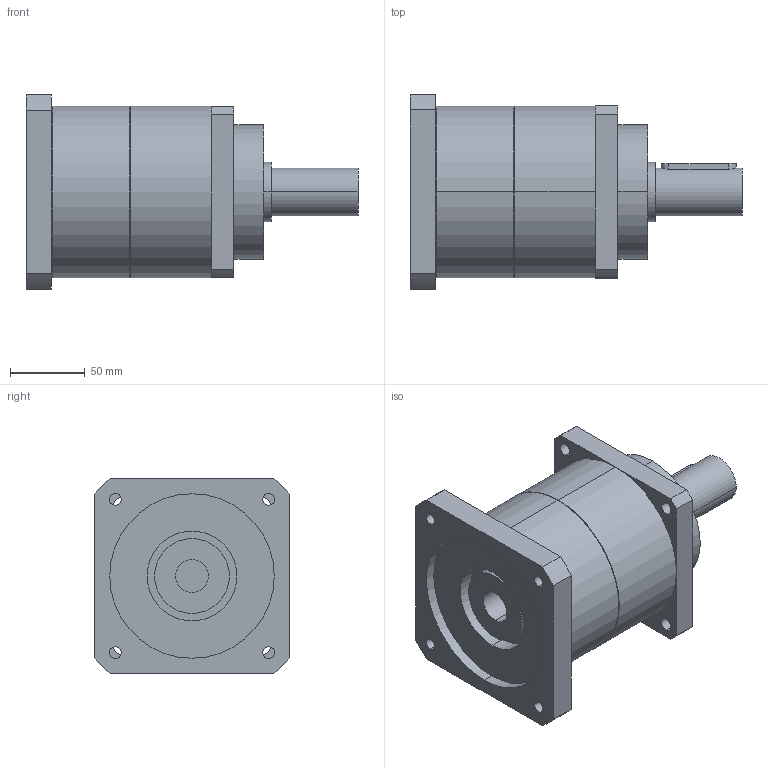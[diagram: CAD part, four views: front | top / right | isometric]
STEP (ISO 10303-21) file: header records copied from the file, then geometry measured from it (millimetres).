
FILE_DESCRIPTION(('CoCreate Modeling STEP Export'),'2;1');
FILE_NAME('GPT120_ig-3-4-5-7-10_32_B5A_22_P12.stp','2015-02-04T16:59:27',(''),(''),'CoCreate Modeling STEP processor for AP214 (Solid Model)','CoCreate Modeling 16.00C 25-Feb-2009 (C) Parametric Technology GmbH','');
FILE_SCHEMA(('AUTOMOTIVE_DESIGN { 1 0 10303 214 1 1 1 1 }'));
Length unit declared in the file: millimetre
Products named in the file (2): GPT120_ig-3-4-5-7-10_32_B5A_22_P12
Assembly tree (1 placements, depth 2):
  GPT120_ig-3-4-5-7-10_32_B5A_22_P12
    GPT120_ig-3-4-5-7-10_32_B5A_22_P12
Bounding box: 222 x 130 x 130 mm (x, y, z)
Volume: 1662169.6 mm3; surface area: 118457 mm2
Topology: 1 solids, 1 shells, 77 faces, 204 edges, 139 vertices
Faces by surface type: cylinder 46, plane 27, cone 4
Entity records: 2568 total; most frequent: CARTESIAN_POINT 759, ORIENTED_EDGE 408, DIRECTION 320, EDGE_CURVE 204, VERTEX_POINT 139, AXIS2_PLACEMENT_3D 118, EDGE_LOOP 103, VECTOR 84
